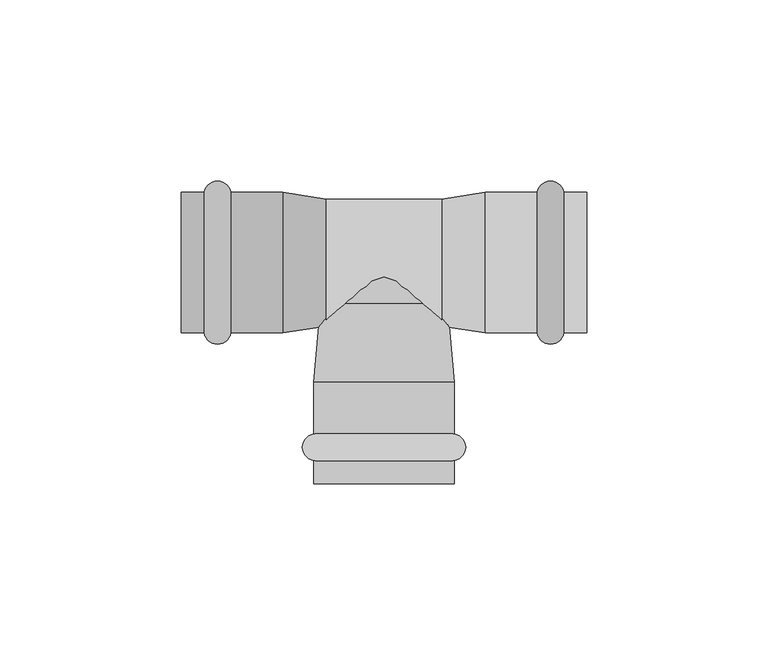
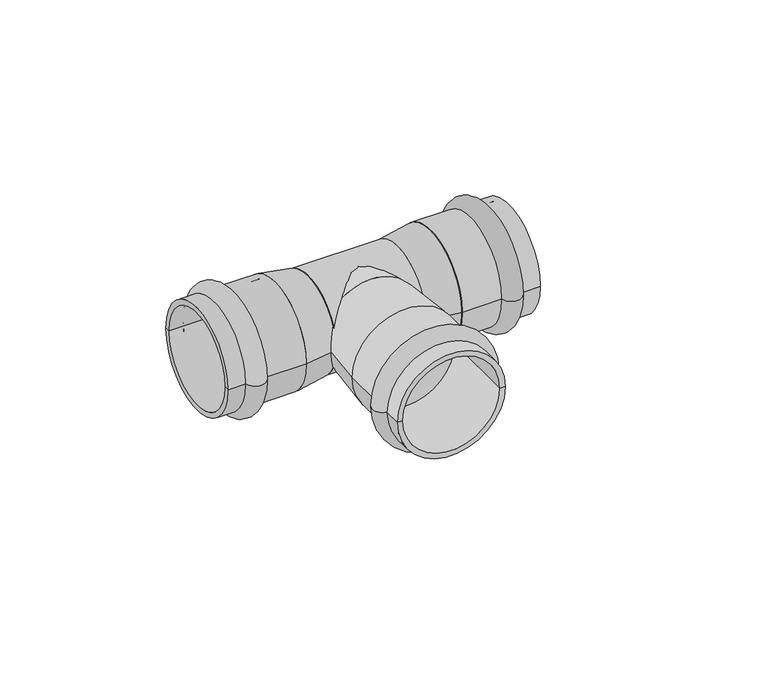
"""IFC4 building model written with IfcOpenShell, lengths in millimetres: pipe fitting geometry, VALTEC_VTi.931.I_Тройник_Ннержавеющая сталь : VTi.931.I."""

from ifc_helpers import new_model, si_unit, point, frame, origin, origin_2d, place, context, project, spatial, polyline, circle_curve, ellipse_curve, trimmed, segment, composite_curve, outline, extrude, source, transform, mapped, element, save
from ifc_brep_helpers import plane_surface, cylinder_surface, revolved_surface, advanced_brep


def pipe_fitting_51fc2fec(model_context):
    return source(origin(), model_context, "Body", "SolidModel", [
        advanced_brep(
        [(19.4, -54.6432371, 0.0), (-19.4, -54.6432371, 0.0), (-19.4, -47.2567629, 0.0), (19.4, -47.2567629, 0.0), (19.4, -61.0, 0.0), (-19.4, -61.0, 0.0), (17.5, -61.0, 0.0), (-17.5, -61.0, 0.0), (17.5, -33.0, 0.0), (-17.5, -33.0, 0.0), (19.4, -33.0, 0.0), (-19.4, -33.0, 0.0)],
        [
            (0, 1, circle_curve(frame((0.0, -54.6432371, 0.0), z_axis=(0.0, 1.0, 0.0), x_axis=(-1.0, 0.0, 0.0)), 19.4)),
            (1, 2, circle_curve(frame((-18.75, -50.95, 0.0), z_axis=(0.0, 0.0, -1.0), x_axis=(0.0, 1.0, 0.0)), 3.75)),
            (2, 3, circle_curve(frame((0.0, -47.2567629, 0.0), z_axis=(0.0, -1.0, 0.0), x_axis=(-1.0, 0.0, 0.0)), 19.4)),
            (3, 0, circle_curve(frame((18.75, -50.95, 0.0), z_axis=(0.0, 0.0, -1.0), x_axis=(0.0, 1.0, 0.0)), 3.75)),
            (1, 0, circle_curve(frame((0.0, -54.6432371, 0.0), z_axis=(0.0, 1.0, 0.0), x_axis=(-1.0, 0.0, 0.0)), 19.4)),
            (3, 2, circle_curve(frame((0.0, -47.2567629, 0.0), z_axis=(0.0, -1.0, 0.0), x_axis=(-1.0, 0.0, 0.0)), 19.4)),
            (4, 5, circle_curve(frame((0.0, -61.0, 0.0), z_axis=(0.0, 1.0, 0.0), x_axis=(-1.0, 0.0, 0.0)), 19.4)),
            (5, 1),
            (0, 4),
            (5, 4, circle_curve(frame((0.0, -61.0, 0.0), z_axis=(0.0, 1.0, 0.0), x_axis=(-1.0, 0.0, 0.0)), 19.4)),
            (6, 7, circle_curve(frame((0.0, -61.0, 0.0), z_axis=(0.0, 1.0, 0.0), x_axis=(-1.0, 0.0, 0.0)), 17.5)),
            (7, 5),
            (4, 6),
            (7, 6, circle_curve(frame((0.0, -61.0, 0.0), z_axis=(0.0, 1.0, 0.0), x_axis=(-1.0, 0.0, 0.0)), 17.5)),
            (8, 9, circle_curve(frame((0.0, -33.0, 0.0), z_axis=(0.0, 1.0, 0.0), x_axis=(-1.0, 0.0, 0.0)), 17.5)),
            (9, 7),
            (6, 8),
            (9, 8, circle_curve(frame((0.0, -33.0, 0.0), z_axis=(0.0, 1.0, 0.0), x_axis=(-1.0, 0.0, 0.0)), 17.5)),
            (10, 11, circle_curve(frame((0.0, -33.0, 0.0), z_axis=(0.0, 1.0, 0.0), x_axis=(-1.0, 0.0, 0.0)), 19.4)),
            (11, 9),
            (8, 10),
            (11, 10, circle_curve(frame((0.0, -33.0, 0.0), z_axis=(0.0, 1.0, 0.0), x_axis=(-1.0, 0.0, 0.0)), 19.4)),
            (2, 11),
            (10, 3),
        ],
        [
            revolved_surface(trimmed(ellipse_curve(frame((-18.75, -50.95, 0.0), z_axis=(0.0, 0.0, 1.0), x_axis=(0.0, 1.0, 0.0)), 3.75, 3.75), [point((-19.4, -47.2567629, 0.0))], [point((-19.4, -54.6432371, 0.0))], True, "CARTESIAN"), (0.0, -64.5364426, 0.0), (0.0, -1.0, 0.0)),
            cylinder_surface(frame((0.0, -64.5364426, 0.0), z_axis=(0.0, -1.0, 0.0), x_axis=(-1.0, 0.0, 0.0)), 19.4),
            plane_surface(frame((0.0, -61.0, 0.0), z_axis=(0.0, -1.0, 0.0), x_axis=(-1.0, 0.0, 0.0))),
            revolved_surface(polyline([(-17.5, -61.0, 0.0), (-17.5, -33.0, 0.0)]), (0.0, -64.5364426, 0.0), (0.0, -1.0, 0.0)),
            plane_surface(frame((0.0, -33.0, 0.0), z_axis=(0.0, 1.0, 0.0), x_axis=(-1.0, 0.0, 0.0))),
        ],
        [
            (0, [[1, 2, 3, 4]]),
            (0, [[5, -4, 6, -2]]),
            (1, [[7, 8, -1, 9]]),
            (1, [[10, -9, -5, -8]]),
            (2, [[11, 12, -7, 13]]),
            (2, [[14, -13, -10, -12]]),
            (3, [[15, 16, -11, 17]]),
            (3, [[18, -17, -14, -16]]),
            (4, [[19, 20, -15, 21]]),
            (4, [[22, -21, -18, -20]]),
            (1, [[-3, 23, -19, 24]]),
            (1, [[-6, -24, -22, -23]]),
        ],
    ),
        advanced_brep(
        [(49.6432371, 19.4, 0.0), (49.6432371, -19.4, 0.0), (42.2567629, -19.4, 0.0), (42.2567629, 19.4, 0.0), (56.0, 19.4, 0.0), (56.0, -19.4, 0.0), (56.0, 17.5, 0.0), (56.0, -17.5, 0.0), (28.0, 17.5, 0.0), (28.0, -17.5, 0.0), (28.0, 19.4, 0.0), (28.0, -19.4, 0.0)],
        [
            (0, 1, circle_curve(frame((49.6432371, 0.0, 0.0), z_axis=(-1.0, 0.0, 0.0), x_axis=(0.0, -1.0, 0.0)), 19.4)),
            (1, 2, circle_curve(frame((45.95, -18.75, 0.0), z_axis=(0.0, 0.0, -1.0), x_axis=(-1.0, 0.0, 0.0)), 3.75)),
            (2, 3, circle_curve(frame((42.2567629, 0.0, 0.0), z_axis=(1.0, 0.0, 0.0), x_axis=(0.0, -1.0, 0.0)), 19.4)),
            (3, 0, circle_curve(frame((45.95, 18.75, 0.0), z_axis=(0.0, 0.0, -1.0), x_axis=(-1.0, 0.0, 0.0)), 3.75)),
            (1, 0, circle_curve(frame((49.6432371, 0.0, 0.0), z_axis=(-1.0, 0.0, 0.0), x_axis=(0.0, -1.0, 0.0)), 19.4)),
            (3, 2, circle_curve(frame((42.2567629, 0.0, 0.0), z_axis=(1.0, 0.0, 0.0), x_axis=(0.0, -1.0, 0.0)), 19.4)),
            (4, 5, circle_curve(frame((56.0, 0.0, 0.0), z_axis=(-1.0, 0.0, 0.0), x_axis=(0.0, -1.0, 0.0)), 19.4)),
            (5, 1),
            (0, 4),
            (5, 4, circle_curve(frame((56.0, 0.0, 0.0), z_axis=(-1.0, 0.0, 0.0), x_axis=(0.0, -1.0, 0.0)), 19.4)),
            (6, 7, circle_curve(frame((56.0, 0.0, 0.0), z_axis=(-1.0, 0.0, 0.0), x_axis=(0.0, -1.0, 0.0)), 17.5)),
            (7, 5),
            (4, 6),
            (7, 6, circle_curve(frame((56.0, 0.0, 0.0), z_axis=(-1.0, 0.0, 0.0), x_axis=(0.0, -1.0, 0.0)), 17.5)),
            (8, 9, circle_curve(frame((28.0, 0.0, 0.0), z_axis=(-1.0, 0.0, 0.0), x_axis=(0.0, -1.0, 0.0)), 17.5)),
            (9, 7),
            (6, 8),
            (9, 8, circle_curve(frame((28.0, 0.0, 0.0), z_axis=(-1.0, 0.0, 0.0), x_axis=(0.0, -1.0, 0.0)), 17.5)),
            (10, 11, circle_curve(frame((28.0, 0.0, 0.0), z_axis=(-1.0, 0.0, 0.0), x_axis=(0.0, -1.0, 0.0)), 19.4)),
            (11, 9),
            (8, 10),
            (11, 10, circle_curve(frame((28.0, 0.0, 0.0), z_axis=(-1.0, 0.0, 0.0), x_axis=(0.0, -1.0, 0.0)), 19.4)),
            (2, 11),
            (10, 3),
        ],
        [
            revolved_surface(trimmed(ellipse_curve(frame((45.95, -18.75, 0.0), z_axis=(0.0, 0.0, 1.0), x_axis=(-1.0, 0.0, 0.0)), 3.75, 3.75), [point((42.2567629, -19.4, 0.0))], [point((49.6432371, -19.4, 0.0))], True, "CARTESIAN"), (59.5364426, 0.0, 0.0), (1.0, 0.0, 0.0)),
            cylinder_surface(frame((59.5364426, 0.0, 0.0), z_axis=(1.0, 0.0, 0.0), x_axis=(0.0, -1.0, 0.0)), 19.4),
            plane_surface(frame((56.0, 0.0, 0.0), z_axis=(1.0, 0.0, 0.0), x_axis=(0.0, -1.0, 0.0))),
            revolved_surface(polyline([(56.0, -17.5, 0.0), (28.0, -17.5, 0.0)]), (59.5364426, 0.0, 0.0), (1.0, 0.0, 0.0)),
            plane_surface(frame((28.0, 0.0, 0.0), z_axis=(-1.0, 0.0, 0.0), x_axis=(0.0, -1.0, 0.0))),
        ],
        [
            (0, [[1, 2, 3, 4]]),
            (0, [[5, -4, 6, -2]]),
            (1, [[7, 8, -1, 9]]),
            (1, [[10, -9, -5, -8]]),
            (2, [[11, 12, -7, 13]]),
            (2, [[14, -13, -10, -12]]),
            (3, [[15, 16, -11, 17]]),
            (3, [[18, -17, -14, -16]]),
            (4, [[19, 20, -15, 21]]),
            (4, [[22, -21, -18, -20]]),
            (1, [[-3, 23, -19, 24]]),
            (1, [[-6, -24, -22, -23]]),
        ],
    ),
        advanced_brep(
        [(-49.6432371, -19.4, 0.0), (-49.6432371, 19.4, 0.0), (-42.2567629, 19.4, 0.0), (-42.2567629, -19.4, 0.0), (-56.0, -19.4, 0.0), (-56.0, 19.4, 0.0), (-56.0, -17.5, 0.0), (-56.0, 17.5, 0.0), (-28.0, -17.5, 0.0), (-28.0, 17.5, 0.0), (-28.0, -19.4, 0.0), (-28.0, 19.4, 0.0)],
        [
            (0, 1, circle_curve(frame((-49.6432371, 0.0, 0.0), z_axis=(1.0, 0.0, 0.0), x_axis=(0.0, 1.0, 0.0)), 19.4)),
            (1, 2, circle_curve(frame((-45.95, 18.75, 0.0), z_axis=(0.0, 0.0, -1.0), x_axis=(1.0, 0.0, 0.0)), 3.75)),
            (2, 3, circle_curve(frame((-42.2567629, 0.0, 0.0), z_axis=(-1.0, 0.0, 0.0), x_axis=(0.0, 1.0, 0.0)), 19.4)),
            (3, 0, circle_curve(frame((-45.95, -18.75, 0.0), z_axis=(0.0, 0.0, -1.0), x_axis=(1.0, 0.0, 0.0)), 3.75)),
            (1, 0, circle_curve(frame((-49.6432371, 0.0, 0.0), z_axis=(1.0, 0.0, 0.0), x_axis=(0.0, 1.0, 0.0)), 19.4)),
            (3, 2, circle_curve(frame((-42.2567629, 0.0, 0.0), z_axis=(-1.0, 0.0, 0.0), x_axis=(0.0, 1.0, 0.0)), 19.4)),
            (4, 5, circle_curve(frame((-56.0, 0.0, 0.0), z_axis=(1.0, 0.0, 0.0), x_axis=(0.0, 1.0, 0.0)), 19.4)),
            (5, 1),
            (0, 4),
            (5, 4, circle_curve(frame((-56.0, 0.0, 0.0), z_axis=(1.0, 0.0, 0.0), x_axis=(0.0, 1.0, 0.0)), 19.4)),
            (6, 7, circle_curve(frame((-56.0, 0.0, 0.0), z_axis=(1.0, 0.0, 0.0), x_axis=(0.0, 1.0, 0.0)), 17.5)),
            (7, 5),
            (4, 6),
            (7, 6, circle_curve(frame((-56.0, 0.0, 0.0), z_axis=(1.0, 0.0, 0.0), x_axis=(0.0, 1.0, 0.0)), 17.5)),
            (8, 9, circle_curve(frame((-28.0, 0.0, 0.0), z_axis=(1.0, 0.0, 0.0), x_axis=(0.0, 1.0, 0.0)), 17.5)),
            (9, 7),
            (6, 8),
            (9, 8, circle_curve(frame((-28.0, 0.0, 0.0), z_axis=(1.0, 0.0, 0.0), x_axis=(0.0, 1.0, 0.0)), 17.5)),
            (10, 11, circle_curve(frame((-28.0, 0.0, 0.0), z_axis=(1.0, 0.0, 0.0), x_axis=(0.0, 1.0, 0.0)), 19.4)),
            (11, 9),
            (8, 10),
            (11, 10, circle_curve(frame((-28.0, 0.0, 0.0), z_axis=(1.0, 0.0, 0.0), x_axis=(0.0, 1.0, 0.0)), 19.4)),
            (2, 11),
            (10, 3),
        ],
        [
            revolved_surface(trimmed(ellipse_curve(frame((-45.95, 18.75, 0.0), z_axis=(0.0, 0.0, 1.0), x_axis=(1.0, 0.0, 0.0)), 3.75, 3.75), [point((-42.2567629, 19.4, 0.0))], [point((-49.6432371, 19.4, 0.0))], True, "CARTESIAN"), (-59.5364426, 0.0, 0.0), (-1.0, 0.0, 0.0)),
            cylinder_surface(frame((-59.5364426, 0.0, 0.0), z_axis=(-1.0, 0.0, 0.0), x_axis=(0.0, 1.0, 0.0)), 19.4),
            plane_surface(frame((-56.0, 0.0, 0.0), z_axis=(-1.0, 0.0, 0.0), x_axis=(0.0, 1.0, 0.0))),
            revolved_surface(polyline([(-56.0, 17.5, 0.0), (-28.0, 17.5, 0.0)]), (-59.5364426, 0.0, 0.0), (-1.0, 0.0, 0.0)),
            plane_surface(frame((-28.0, 0.0, 0.0), z_axis=(1.0, 0.0, 0.0), x_axis=(0.0, 1.0, 0.0))),
        ],
        [
            (0, [[1, 2, 3, 4]]),
            (0, [[5, -4, 6, -2]]),
            (1, [[7, 8, -1, 9]]),
            (1, [[10, -9, -5, -8]]),
            (2, [[11, 12, -7, 13]]),
            (2, [[14, -13, -10, -12]]),
            (3, [[15, 16, -11, 17]]),
            (3, [[18, -17, -14, -16]]),
            (4, [[19, 20, -15, 21]]),
            (4, [[22, -21, -18, -20]]),
            (1, [[-3, 23, -19, 24]]),
            (1, [[-6, -24, -22, -23]]),
        ],
    ),
        extrude(outline(composite_curve([segment(trimmed(circle_curve(origin_2d(), 17.5), [point((-17.5, 0.0))], [point((17.5, 0.0))], False, "CARTESIAN"), True, "CONTINUOUS"), segment(trimmed(circle_curve(origin_2d(), 17.5), [point((17.5, 0.0))], [point((-17.5, 0.0))], False, "CARTESIAN"), True, "CONTINUOUS")], self_intersect=False)), frame((-16.0, 0.0, 0.0), z_axis=(1.0, 0.0, 0.0), x_axis=(0.0, 1.0, 0.0)), (0.0, 0.0, 1.0), 32.0),
        advanced_brep(
        [(-19.4, -33.0, 0.0), (19.4, -33.0, 0.0), (-17.5, -11.3209826, 0.0), (17.5, -11.3209826, 0.0)],
        [
            (0, 1, circle_curve(frame((0.0, -33.0, 0.0), z_axis=(0.0, -1.0, 0.0), x_axis=(-1.0, 0.0, 0.0)), 19.4)),
            (1, 0, circle_curve(frame((0.0, -33.0, 0.0), z_axis=(0.0, -1.0, 0.0), x_axis=(1.0, 0.0, 0.0)), 19.4)),
            (2, 3, circle_curve(frame((0.0, -11.3209826, 0.0), z_axis=(0.0, 1.0, 0.0), x_axis=(1.0, 0.0, 0.0)), 17.5)),
            (3, 2, circle_curve(frame((0.0, -11.3209826, 0.0), z_axis=(0.0, 1.0, 0.0), x_axis=(-1.0, 0.0, 0.0)), 17.5)),
            (3, 1),
            (0, 2),
        ],
        [
            plane_surface(frame((0.0, -33.0, 0.0), z_axis=(0.0, -1.0, 0.0), x_axis=(0.0, 0.0, 1.0))),
            plane_surface(frame((0.0, -11.3209826, 0.0), z_axis=(0.0, 1.0, 0.0), x_axis=(0.0, 0.0, 1.0))),
            revolved_surface(polyline([(17.500000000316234, -11.320982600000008, 0.0), (19.4, -33.0, 0.0)]), (0.0, 188.3541777, 0.0), (0.0, -1.0, 0.0)),
            revolved_surface(polyline([(-17.500000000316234, -11.320982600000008, 0.0), (-19.4, -33.0, 0.0)]), (0.0, 188.3541777, 0.0), (0.0, -1.0, 0.0)),
        ],
        [
            (0, [[1, 2]]),
            (1, [[3, 4]]),
            (2, [[-4, 5, -1, 6]]),
            (3, [[-3, -6, -2, -5]]),
        ],
    ),
        extrude(outline(composite_curve([segment(trimmed(circle_curve(origin_2d(), 17.5), [point((0.0, -17.5))], [point((0.0, 17.5))], False, "CARTESIAN"), True, "CONTINUOUS"), segment(trimmed(circle_curve(origin_2d(), 17.5), [point((0.0, 17.5))], [point((0.0, -17.5))], False, "CARTESIAN"), True, "CONTINUOUS")], self_intersect=False)), frame((0.0, -11.3209826, 0.0), z_axis=(0.0, 1.0, 0.0), x_axis=(0.0, 0.0, 1.0)), (0.0, 0.0, 1.0), 11.3209826),
        advanced_brep(
        [(28.0, -19.4, 0.0), (28.0, 19.4, 0.0), (16.0, -17.5, 0.0), (16.0, 17.5, 0.0)],
        [
            (0, 1, circle_curve(frame((28.0, 0.0, 0.0), z_axis=(1.0, 0.0, 0.0), x_axis=(0.0, -1.0, 0.0)), 19.4)),
            (1, 0, circle_curve(frame((28.0, 0.0, 0.0), z_axis=(1.0, 0.0, 0.0), x_axis=(0.0, 1.0, 0.0)), 19.4)),
            (2, 3, circle_curve(frame((16.0, 0.0, 0.0), z_axis=(-1.0, 0.0, 0.0), x_axis=(0.0, 1.0, 0.0)), 17.5)),
            (3, 2, circle_curve(frame((16.0, 0.0, 0.0), z_axis=(-1.0, 0.0, 0.0), x_axis=(0.0, -1.0, 0.0)), 17.5)),
            (3, 1),
            (0, 2),
        ],
        [
            plane_surface(frame((28.0, 0.0, 0.0), z_axis=(1.0, 0.0, 0.0), x_axis=(0.0, 0.0, 1.0))),
            plane_surface(frame((16.0, 0.0, 0.0), z_axis=(-1.0, 0.0, 0.0), x_axis=(0.0, 0.0, 1.0))),
            revolved_surface(polyline([(16.0, 17.50000000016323, 0.0), (28.0, 19.4, 0.0)]), (-94.5263158, 0.0, 0.0), (1.0, 0.0, 0.0)),
            revolved_surface(polyline([(16.0, -17.50000000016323, 0.0), (28.0, -19.4, 0.0)]), (-94.5263158, 0.0, 0.0), (1.0, 0.0, 0.0)),
        ],
        [
            (0, [[1, 2]]),
            (1, [[3, 4]]),
            (2, [[-4, 5, -1, 6]]),
            (3, [[-3, -6, -2, -5]]),
        ],
    ),
        advanced_brep(
        [(-28.0, -19.4, 0.0), (-28.0, 19.4, 0.0), (-16.0, -17.5, 0.0), (-16.0, 17.5, 0.0)],
        [
            (0, 1, circle_curve(frame((-28.0, 0.0, 0.0), z_axis=(-1.0, 0.0, 0.0), x_axis=(0.0, -1.0, 0.0)), 19.4)),
            (1, 0, circle_curve(frame((-28.0, 0.0, 0.0), z_axis=(-1.0, 0.0, 0.0), x_axis=(0.0, 1.0, 0.0)), 19.4)),
            (2, 3, circle_curve(frame((-16.0, 0.0, 0.0), z_axis=(1.0, 0.0, 0.0), x_axis=(0.0, 1.0, 0.0)), 17.5)),
            (3, 2, circle_curve(frame((-16.0, 0.0, 0.0), z_axis=(1.0, 0.0, 0.0), x_axis=(0.0, -1.0, 0.0)), 17.5)),
            (2, 0),
            (1, 3),
        ],
        [
            plane_surface(frame((-28.0, 0.0, 0.0), z_axis=(-1.0, 0.0, 0.0), x_axis=(0.0, 0.0, -1.0))),
            plane_surface(frame((-16.0, 0.0, 0.0), z_axis=(1.0, 0.0, 0.0), x_axis=(0.0, 0.0, -1.0))),
            revolved_surface(polyline([(-16.0, -17.50000000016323, 0.0), (-28.0, -19.4, 0.0)]), (94.5263158, 0.0, 0.0), (-1.0, 0.0, 0.0)),
            revolved_surface(polyline([(-16.0, 17.50000000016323, 0.0), (-28.0, 19.4, 0.0)]), (94.5263158, 0.0, 0.0), (-1.0, 0.0, 0.0)),
        ],
        [
            (0, [[1, 2]]),
            (1, [[3, 4]]),
            (2, [[-3, 5, -2, 6]]),
            (3, [[-4, -6, -1, -5]]),
        ],
    ),
    ])


if __name__ == "__main__":
    model = new_model("IFC4")
    model_context = context("Model", 3, world=origin())
    ifc_project = project(units=[si_unit("LENGTHUNIT", "METRE", prefix="MILLI")], contexts=[model_context])
    site = spatial("IfcSite", under=ifc_project)
    building = spatial("IfcBuilding", under=site)
    placement = place(None, origin())
    pipe_fitting_shape = pipe_fitting_51fc2fec(model_context)
    element("IfcPipeFitting", 1, ObjectType="VALTEC_VTi.931.I_Тройник_Ннержавеющая сталь : VTi.931.I", at=placement, inside=building, context=model_context, shape_type="MappedRepresentation", body=[
        mapped(pipe_fitting_shape, transform((0.0, 0.0, 0.0), x_axis=(1.0, 0.0, 0.0), y_axis=(0.0, 1.0, 0.0), z_axis=(0.0, 0.0, 1.0))),
    ])
    save(model, "model.ifc")
